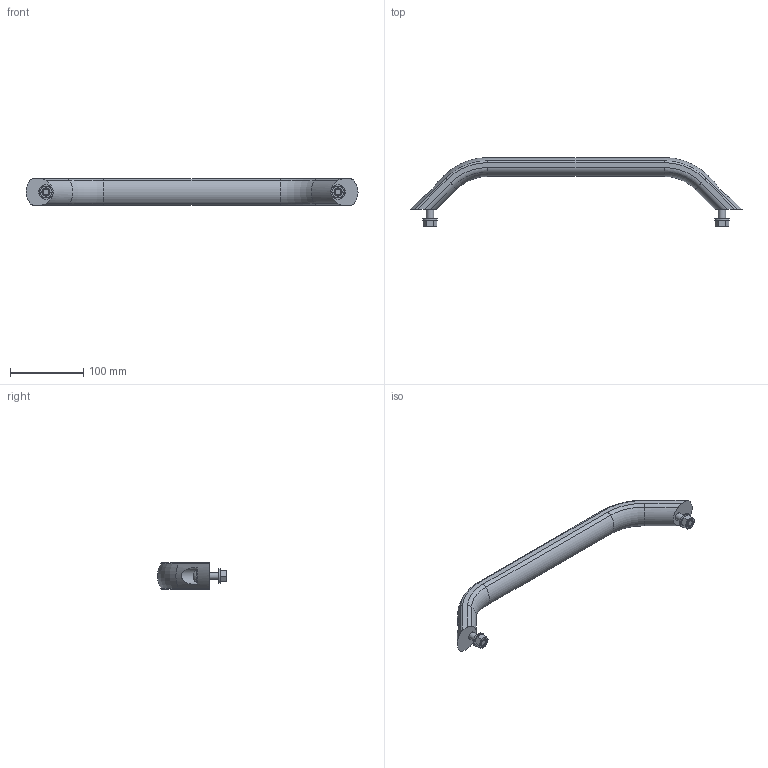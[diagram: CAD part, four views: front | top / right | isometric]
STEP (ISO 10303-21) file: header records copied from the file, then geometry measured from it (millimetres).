
FILE_DESCRIPTION( ( 'STEP AP203' ), '1' );
FILE_NAME( 'C:/Temp/Ganter_Step_05_03_2020/data/1_2/gn_428/gn_428_b/Cabinet U-handle GN 428-AL-36-400-B-SW.stp', '2020-03-05T10:11:39', ( 'License CC BY-ND 4.0' ), ( 'CADENAS' ), ' ', 'PARTsolutions', ' ' );
FILE_SCHEMA( ( 'CONFIG_CONTROL_DESIGN' ) );
Length unit declared in the file: millimetre
Products named in the file (1): _Cabinet U-handle GN 428-AL-36-400-B-SW
Bounding box: 454.73 x 94.31 x 36 mm (x, y, z)
Volume: 355142 mm3; surface area: 55958.5 mm2
Topology: 1 solids, 1 shells, 124 faces, 268 edges, 164 vertices
Faces by surface type: plane 50, cylinder 30, cone 30, torus 12, bspline 2
Full cylindrical faces by diameter (mm): 10 x2, 10.5 x2, 11 x2, 17.5 x2, 20 x2
Entity records: 3610 total; most frequent: CARTESIAN_POINT 967, DIRECTION 554, ORIENTED_EDGE 496, EDGE_CURVE 248, AXIS2_PLACEMENT_3D 233, VERTEX_POINT 162, EDGE_LOOP 160, FACE_OUTER_BOUND 136
